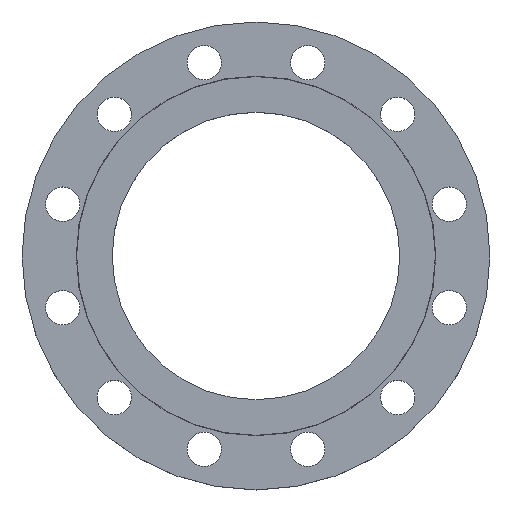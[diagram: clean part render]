
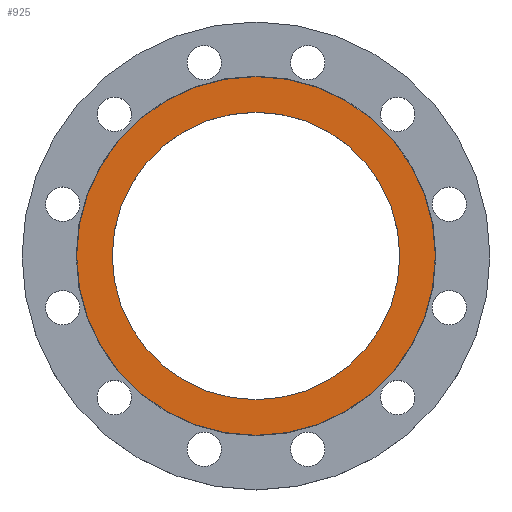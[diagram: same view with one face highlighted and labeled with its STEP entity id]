
A CAD part, top view. The second image highlights one B-rep face of the part: STEP entity #925.
In plain terms, the highlighted planar face has unit normal (0, 0, 1).
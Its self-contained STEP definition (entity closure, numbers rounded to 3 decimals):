
#31 = CARTESIAN_POINT ( 'NONE',  ( 172.5, 0., 0. ) ) ;
#58 = CARTESIAN_POINT ( 'NONE',  ( -172.5, 0., 0. ) ) ;
#70 = AXIS2_PLACEMENT_3D ( 'NONE', #370, #369, #366 ) ;
#89 = DIRECTION ( 'NONE',  ( -1., 0., 0. ) ) ;
#90 = DIRECTION ( 'NONE',  ( 0., 0., -1. ) ) ;
#91 = CARTESIAN_POINT ( 'NONE',  ( 0., 0., 0. ) ) ;
#144 = CIRCLE ( 'NONE', #70, 138.25 ) ;
#149 = DIRECTION ( 'NONE',  ( -1., 0., 0. ) ) ;
#150 = DIRECTION ( 'NONE',  ( 0., 0., -1. ) ) ;
#151 = CARTESIAN_POINT ( 'NONE',  ( 0., 0., 0. ) ) ;
#316 = DIRECTION ( 'NONE',  ( -1., 0., 0. ) ) ;
#317 = DIRECTION ( 'NONE',  ( 0., 0., -1. ) ) ;
#318 = CARTESIAN_POINT ( 'NONE',  ( 0., 0., 0. ) ) ;
#356 = CARTESIAN_POINT ( 'NONE',  ( 138.25, 0., 0. ) ) ;
#366 = DIRECTION ( 'NONE',  ( -1., 0., 0. ) ) ;
#369 = DIRECTION ( 'NONE',  ( 0., 0., -1. ) ) ;
#370 = CARTESIAN_POINT ( 'NONE',  ( 0., 0., 0. ) ) ;
#428 = FACE_BOUND ( 'NONE', #568, .T. ) ;
#462 = CIRCLE ( 'NONE', #481, 138.25 ) ;
#466 = ORIENTED_EDGE ( 'NONE', *, *, #507, .T. ) ;
#468 = ORIENTED_EDGE ( 'NONE', *, *, #596, .T. ) ;
#471 = ORIENTED_EDGE ( 'NONE', *, *, #798, .F. ) ;
#473 = ORIENTED_EDGE ( 'NONE', *, *, #861, .F. ) ;
#481 = AXIS2_PLACEMENT_3D ( 'NONE', #318, #317, #316 ) ;
#507 = EDGE_CURVE ( 'NONE', #1153, #541, #144, .T. ) ;
#541 = VERTEX_POINT ( 'NONE', #356 ) ;
#568 = EDGE_LOOP ( 'NONE', ( #466, #468 ) ) ;
#594 = CIRCLE ( 'NONE', #608, 172.5 ) ;
#596 = EDGE_CURVE ( 'NONE', #541, #1153, #462, .T. ) ;
#608 = AXIS2_PLACEMENT_3D ( 'NONE', #91, #90, #89 ) ;
#664 = EDGE_LOOP ( 'NONE', ( #471, #473 ) ) ;
#776 = CARTESIAN_POINT ( 'NONE',  ( -138.25, 0., 0. ) ) ;
#798 = EDGE_CURVE ( 'NONE', #881, #899, #1111, .T. ) ;
#861 = EDGE_CURVE ( 'NONE', #899, #881, #594, .T. ) ;
#881 = VERTEX_POINT ( 'NONE', #58 ) ;
#899 = VERTEX_POINT ( 'NONE', #31 ) ;
#925 = ADVANCED_FACE ( 'NONE', ( #428, #1181 ), #1179, .T. ) ;
#971 = AXIS2_PLACEMENT_3D ( 'NONE', #1172, #1129, #1127 ) ;
#1111 = CIRCLE ( 'NONE', #1136, 172.5 ) ;
#1127 = DIRECTION ( 'NONE',  ( 1., 0., 0. ) ) ;
#1129 = DIRECTION ( 'NONE',  ( 0., 0., 1. ) ) ;
#1136 = AXIS2_PLACEMENT_3D ( 'NONE', #151, #150, #149 ) ;
#1153 = VERTEX_POINT ( 'NONE', #776 ) ;
#1172 = CARTESIAN_POINT ( 'NONE',  ( 0., 0., 0. ) ) ;
#1179 = PLANE ( 'NONE',  #971 ) ;
#1181 = FACE_OUTER_BOUND ( 'NONE', #664, .T. ) ;
